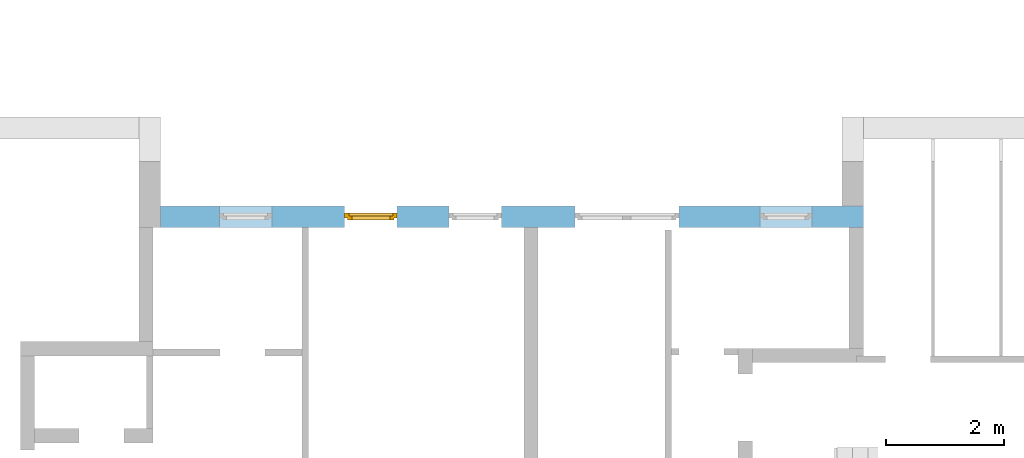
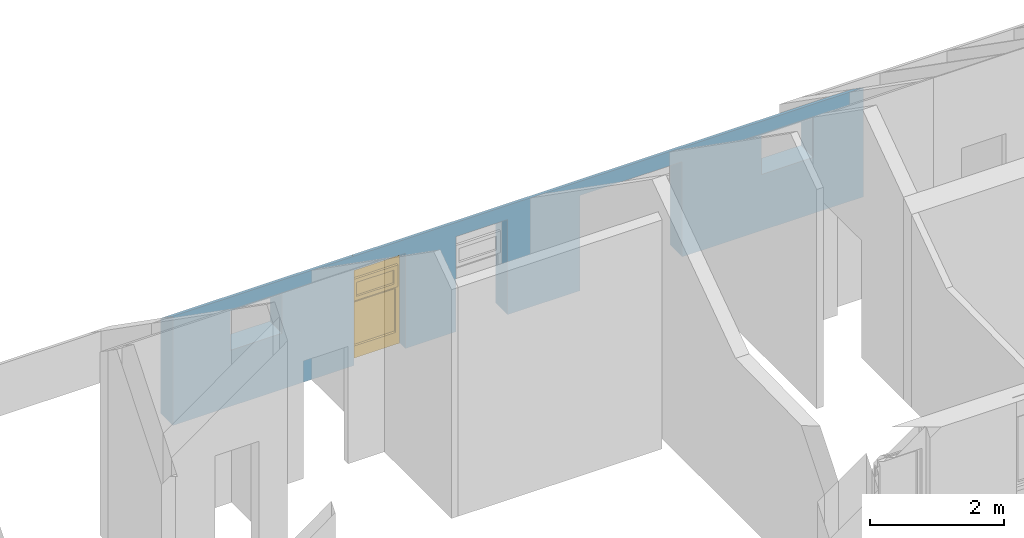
# One storey, part 18 of 23: 1 window, 5 openings, plus 1 element that does not belong to this part.
"""IFC2X3 building model written with IfcOpenShell, lengths in millimetres."""

import ifcopenshell
import ifcopenshell.guid

model = None  # the IFC model being written
_history = None  # IfcOwnerHistory: only IFC2X3 demands one
_inside = {}  # id of a spatial element -> (the spatial element, [elements in it])
_under = {}  # id of a project, library or spatial element -> (it, [spatial elements below it])
_declared = {}  # id of a project -> (the project, [libraries it declares])
_typed = {}  # id of a type object -> (the type object, [elements of that type])
_made_of = {}  # id of a material, layer set ... -> (it, [elements and type objects made of it])


def new_model(schema):
    """Start an empty IFC model of exactly this schema.

    Asked for "IFC4X3", IfcOpenShell would pick the latest addendum, in which some entities
    have other attributes; the version numbers below select the first issue.
    IFC2X3 requires an IfcOwnerHistory on every rooted entity: one is made here for all.
    """
    global model, _history
    if schema == "IFC4X3":
        model = ifcopenshell.file(schema_version=(4, 3, 0, 0))
    else:
        model = ifcopenshell.file(schema=schema)
    _inside.clear()
    _under.clear()
    _declared.clear()
    _typed.clear()
    _made_of.clear()
    _history = None
    if model.schema == "IFC2X3":
        org = make("IfcOrganization", Name="unknown")
        user = make(
            "IfcPersonAndOrganization",
            ThePerson=make("IfcPerson", FamilyName="unknown"),
            TheOrganization=org,
        )
        app = make(
            "IfcApplication",
            ApplicationDeveloper=org,
            Version="unknown",
            ApplicationFullName="unknown",
            ApplicationIdentifier="unknown",
        )
        _history = make(
            "IfcOwnerHistory",
            OwningUser=user,
            OwningApplication=app,
            ChangeAction="ADDED",
            CreationDate=0,
        )
    return model


def make(cls, **values):
    """One entity of the class cls with the attributes given. An attribute that is None is left unset."""
    return model.create_entity(
        cls, **{name: value for name, value in values.items() if value is not None}
    )


def entity(cls, *values):
    """Any entity or typed value of the class cls, its attributes in the order of the schema. None: left unset."""
    e = model.create_entity(cls)
    for i, value in enumerate(values):
        if value is not None:
            e[i] = value
    return e


def rooted(cls, **values):
    """An entity with a GlobalId (a new one), such as an element, a storey or a relation."""
    return make(cls, GlobalId=ifcopenshell.guid.new(), OwnerHistory=_history, **values)


def si_unit(unit_type, name, prefix=None):
    """IfcSIUnit, for example si_unit("LENGTHUNIT", "METRE", prefix="MILLI")."""
    return make("IfcSIUnit", UnitType=unit_type, Prefix=prefix, Name=name)


def converted_unit(unit_type, name, factor, base, dimensions=None, offset=None):
    """IfcConversionBasedUnit, such as the inch: factor (a typed value) times the base unit."""
    return make(
        "IfcConversionBasedUnit"
        if offset is None
        else "IfcConversionBasedUnitWithOffset",
        ConversionOffset=offset,
        Dimensions=None
        if dimensions is None
        else entity("IfcDimensionalExponents", *dimensions),
        UnitType=unit_type,
        Name=name,
        ConversionFactor=make(
            "IfcMeasureWithUnit", ValueComponent=factor, UnitComponent=base
        ),
    )


def assignment(units):
    """IfcUnitAssignment: the units of a project."""
    return None if units is None else make("IfcUnitAssignment", Units=units)


def point(xyz):
    """IfcCartesianPoint."""
    return None if xyz is None else make("IfcCartesianPoint", Coordinates=xyz)


def direction(xyz):
    """IfcDirection."""
    return None if xyz is None else make("IfcDirection", DirectionRatios=xyz)


def frame(location, z_axis=None, x_axis=None):
    """IfcAxis2Placement3D, a coordinate frame: its origin and axes. An axis left out is left unset."""
    return make(
        "IfcAxis2Placement3D",
        Location=point(location),
        Axis=direction(z_axis),
        RefDirection=direction(x_axis),
    )


def frame_2d(location, x_axis=None):
    """IfcAxis2Placement2D, a coordinate frame in the plane: its origin and x axis."""
    return make(
        "IfcAxis2Placement2D", Location=point(location), RefDirection=direction(x_axis)
    )


def origin():
    """The frame at (0, 0, 0) with its axes left unset."""
    return frame((0.0, 0.0, 0.0))


def origin_with_axes():
    """The frame at (0, 0, 0) with the z axis (0, 0, 1) and the x axis (1, 0, 0) written out."""
    return frame((0.0, 0.0, 0.0), z_axis=(0.0, 0.0, 1.0), x_axis=(1.0, 0.0, 0.0))


def place(relative_to, where):
    """IfcLocalPlacement: puts the frame where relative to a parent placement (None: the world)."""
    return make(
        "IfcLocalPlacement", PlacementRelTo=relative_to, RelativePlacement=where
    )


def context(
    kind, dimensions, precision=None, world=None, true_north=None, identifier=None
):
    """IfcGeometricRepresentationContext, for example the 3D "Model" context."""
    return make(
        "IfcGeometricRepresentationContext",
        ContextIdentifier=identifier,
        ContextType=kind,
        CoordinateSpaceDimension=dimensions,
        Precision=precision,
        WorldCoordinateSystem=world,
        TrueNorth=true_north,
    )


def subcontext(parent, identifier, kind, view, scale=None):
    """IfcGeometricRepresentationSubContext, for example "Body" below "Model"."""
    return make(
        "IfcGeometricRepresentationSubContext",
        ContextIdentifier=identifier,
        ContextType=kind,
        ParentContext=parent,
        TargetScale=scale,
        TargetView=view,
    )


def project(units=None, contexts=None):
    """IfcProject with its units and contexts."""
    return rooted(
        "IfcProject",
        Name="project",
        RepresentationContexts=contexts,
        UnitsInContext=assignment(units),
    )


def spatial(cls, under=None, at=None, **own):
    """A site, building, storey or space (cls), placed at a placement, below another one or the project."""
    s = rooted(cls, ObjectPlacement=at, **own)
    if under is not None:
        _under.setdefault(under.id(), (under, []))[1].append(s)
    return s


def profile(cls, at=None, kind="AREA", **sizes):
    """A parametric profile (cls). Its sizes go by their IFC names, for example OverallWidth=200.0."""
    return make(cls, ProfileType=kind, Position=at, **sizes)


def rectangle(**sizes):
    """IfcRectangleProfileDef."""
    return profile("IfcRectangleProfileDef", **sizes)


def extrude(swept, where, along, depth):
    """IfcExtrudedAreaSolid: the profile swept, set in the frame where, extruded along a direction by depth."""
    return make(
        "IfcExtrudedAreaSolid",
        SweptArea=swept,
        Position=where,
        ExtrudedDirection=direction(along),
        Depth=depth,
    )


def clip(a, b, op="DIFFERENCE"):
    """IfcBooleanClippingResult: the solid a cut by the half space b."""
    return make(
        "IfcBooleanClippingResult", Operator=op, FirstOperand=a, SecondOperand=b
    )


def halfspace(plane, agree):
    """IfcHalfSpaceSolid: all space on one side of the plane z = 0 of the frame plane."""
    return make(
        "IfcHalfSpaceSolid",
        BaseSurface=make("IfcPlane", Position=plane),
        AgreementFlag=agree,
    )


def faces_of(points, faces, orient=None, outer=None):
    """IfcFace entities. A face is a list of loops; a loop is a list of indices into points, from 0.

    orient and outer hold one flag for each loop. By default every Orientation is true, the
    first loop of a face is its IfcFaceOuterBound and the others are IfcFaceBound.
    """
    made = []
    for i, loops in enumerate(faces):
        bounds = []
        for j, loop in enumerate(loops):
            is_outer = j == 0 if outer is None else outer[i][j]
            bounds.append(
                make(
                    "IfcFaceOuterBound" if is_outer else "IfcFaceBound",
                    Bound=make("IfcPolyLoop", Polygon=[points[k] for k in loop]),
                    Orientation=True if orient is None else orient[i][j],
                )
            )
        made.append(make("IfcFace", Bounds=bounds))
    return made


def faceted_brep(points, faces, orient=None, outer=None, voids=None):
    """IfcFacetedBrep: a solid bounded by flat faces; with voids (closed shells), ...WithVoids."""
    shared = [point(p) for p in points]
    hull = make("IfcClosedShell", CfsFaces=faces_of(shared, faces, orient, outer))
    if voids is None:
        return make("IfcFacetedBrep", Outer=hull)
    return make(
        "IfcFacetedBrepWithVoids",
        Outer=hull,
        Voids=[
            make(cls, CfsFaces=faces_of(shared, fs, o, b)) for cls, fs, o, b in voids
        ],
    )


def shape(context_of_items, identifier, shape_type, items):
    """IfcShapeRepresentation: the items that make up one representation, for example the "Body"."""
    return make(
        "IfcShapeRepresentation",
        ContextOfItems=context_of_items,
        RepresentationIdentifier=identifier,
        RepresentationType=shape_type,
        Items=items,
    )


def material(Name=None, Category=None):
    """IfcMaterial."""
    return make("IfcMaterial", Name=Name, Category=Category)


def layer(
    of_material, thickness, ventilated=None, Name=None, Category=None, Priority=None
):
    """IfcMaterialLayer: one layer of a wall or slab, of a material (None: an air gap)."""
    return make(
        "IfcMaterialLayer",
        Material=of_material,
        LayerThickness=thickness,
        IsVentilated=ventilated,
        Name=Name,
        Category=Category,
        Priority=Priority,
    )


def layer_set(layers, Name=None):
    """IfcMaterialLayerSet."""
    return make("IfcMaterialLayerSet", MaterialLayers=layers, LayerSetName=Name)


def layer_usage(for_layer_set, set_direction, sense, offset, extent=None):
    """IfcMaterialLayerSetUsage: how a layer set lies in its element."""
    return make(
        "IfcMaterialLayerSetUsage",
        ForLayerSet=for_layer_set,
        LayerSetDirection=set_direction,
        DirectionSense=sense,
        OffsetFromReferenceLine=offset,
        ReferenceExtent=extent,
    )


def made_of(thing, what):
    """Note that an element or type object is made of a material, layer set ...; save() writes the relation."""
    if what is not None:
        _made_of.setdefault(what.id(), (what, []))[1].append(thing)
    return thing


def type_object(cls, material=None, **own):
    """A type object (cls), such as IfcWallType, which elements share."""
    return made_of(rooted(cls, **own), material)


def element(
    cls,
    number,
    at=None,
    inside=None,
    cuts=None,
    type_object=None,
    material=None,
    context=None,
    identifier="Body",
    shape_type=None,
    held_by="IfcProductDefinitionShape",
    body=None,
    shapes=None,
    **own,
):
    """One element of the class cls, such as IfcWall. Its Tag is "e" and its number.

    at: its placement. inside: the storey or other place that contains it. cuts: it is an
    opening in that element (IfcRelVoidsElement). A single representation is given by context,
    identifier, shape_type and body (its items); several are given by shapes. held_by: the class
    of the entity that holds the representations. save() writes the other relations.
    """
    e = rooted(cls, Tag="e%d" % number, ObjectPlacement=at, **own)
    if body is not None:
        shapes = [shape(context, identifier, shape_type, body)]
    if shapes is not None:
        e.Representation = make(held_by, Representations=shapes)
    if inside is not None:
        _inside.setdefault(inside.id(), (inside, []))[1].append(e)
    if cuts is not None:
        rooted(
            "IfcRelVoidsElement", RelatingBuildingElement=cuts, RelatedOpeningElement=e
        )
    if type_object is not None:
        _typed.setdefault(type_object.id(), (type_object, []))[1].append(e)
    return made_of(e, material)


def fill(opening, filler):
    """IfcRelFillsElement: the door or window that sits in an opening."""
    return rooted(
        "IfcRelFillsElement",
        RelatingOpeningElement=opening,
        RelatedBuildingElement=filler,
    )


def aggregate(whole, parts):
    """IfcRelAggregates: a whole, such as a stair, and the parts it consists of."""
    return rooted("IfcRelAggregates", RelatingObject=whole, RelatedObjects=parts)


def save(model, path):
    """Write the relations noted so far, then the file.

    IfcRelAggregates (storeys below a building ...), IfcRelContainedInSpatialStructure (elements
    in a storey), IfcRelDefinesByType, IfcRelAssociatesMaterial and IfcRelDeclares: one each for
    every whole, place, type object, material and project.
    """
    for whole, parts in _under.values():
        aggregate(whole, parts)
    for where, things in _inside.values():
        rooted(
            "IfcRelContainedInSpatialStructure",
            RelatedElements=things,
            RelatingStructure=where,
        )
    for kind, things in _typed.values():
        rooted("IfcRelDefinesByType", RelatedObjects=things, RelatingType=kind)
    for what, things in _made_of.values():
        rooted("IfcRelAssociatesMaterial", RelatedObjects=things, RelatingMaterial=what)
    for by, libraries in _declared.values():
        rooted("IfcRelDeclares", RelatingContext=by, RelatedDefinitions=libraries)
    model.write(path)


model = new_model("IFC2X3")

# Units and contexts
model_context = context("Model", 3, precision=1e-05, world=origin())
body_context = subcontext(model_context, "Body", "Model", "MODEL_VIEW")
ifc_project = project(units=[si_unit("LENGTHUNIT", "METRE", prefix="MILLI"), converted_unit("PLANEANGLEUNIT", "DEGREE", entity("IfcPlaneAngleMeasure", 0.0174532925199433), si_unit("PLANEANGLEUNIT", "RADIAN"), dimensions=[0, 0, 0, 0, 0, 0, 0]), si_unit("AREAUNIT", "SQUARE_METRE"), si_unit("VOLUMEUNIT", "CUBIC_METRE")], contexts=[model_context])

# Building, storey
building_placement = place(None, origin())
building = spatial("IfcBuilding", under=ifc_project, at=building_placement, Name="Gebäude", CompositionType="ELEMENT")
storey_placement = place(building_placement, frame((0.0, 0.0, 5580.0), z_axis=(0.0, 0.0, 1.0), x_axis=(1.0, 0.0, 0.0)))
storey = spatial("IfcBuildingStorey", under=building, at=storey_placement, Name="DG.- Grundriss", CompositionType="ELEMENT", Elevation=5580.0)

# Wall, openings, window
ifc_material_1 = material(Name="Poroton")
ifc_layer = layer(ifc_material_1, 365.0000000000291)
ifc_layer_set = layer_set([ifc_layer])
ifc_layer_usage = layer_usage(ifc_layer_set, "AXIS2", "POSITIVE", 0.0)
wall_placement = place(storey_placement, frame((176237.7928067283, 134774.8877324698, 0.0), z_axis=(0.0, 0.0, 1.0), x_axis=(-1.0, 0.0, 0.0)))
wall = element("IfcWallStandardCase", 1, at=wall_placement, inside=storey, material=ifc_layer_usage, Name="<Unnamed Element>", context=body_context, shape_type="Clipping", body=[
    clip(extrude(rectangle(XDim=11869.99999999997, YDim=365.0000000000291, at=frame_2d((5934.999999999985, 182.5000000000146), x_axis=(1.0, 0.0))), origin_with_axes(), (0.0, 0.0, 1.0), 1985.88705876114), halfspace(frame((0.0, 0.0, 1730.311307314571), z_axis=(3.082338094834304e-17, 0.5735764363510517, -0.8191520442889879), x_axis=(1.0, 0.0, 0.0)), True)),
])
opening_1_placement = place(wall_placement, frame((7875.000000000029, 0.0, 0.0), z_axis=(0.0, 1.0, 0.0), x_axis=(0.0, 0.0, 1.0)))
opening_1 = element("IfcOpeningElement", 2, at=opening_1_placement, cuts=wall, Name="Fensteröffnung", ObjectType="Opening", context=body_context, shape_type="SweptSolid", body=[
    extrude(rectangle(XDim=1730.311307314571, YDim=885.0, at=frame_2d((865.1556536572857, 442.5), x_axis=(1.0, 0.0))), origin_with_axes(), (0.0, 0.0, 1.0), 365.0000000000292),
])
opening_2_placement = place(wall_placement, frame((6115.000000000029, 0.0, 0.0), z_axis=(0.0, 1.0, 0.0), x_axis=(0.0, 0.0, 1.0)))
element("IfcOpeningElement", 3, at=opening_2_placement, cuts=wall, Name="Fensteröffnung", ObjectType="Opening", context=body_context, shape_type="SweptSolid", body=[
    extrude(rectangle(XDim=1730.311307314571, YDim=885.0, at=frame_2d((865.1556536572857, 442.5), x_axis=(1.0, 0.0))), origin_with_axes(), (0.0, 0.0, 1.0), 365.0000000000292),
])
opening_3_placement = place(wall_placement, frame((9990.00000000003, 0.0, 1020.0), z_axis=(0.0, 1.0, 0.0), x_axis=(0.0, 0.0, 1.0)))
element("IfcOpeningElement", 4, at=opening_3_placement, cuts=wall, Name="Fensteröffnung", ObjectType="Opening", context=body_context, shape_type="SweptSolid", body=[
    extrude(rectangle(XDim=710.3113073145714, YDim=885.0, at=frame_2d((355.1556536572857, 442.5), x_axis=(1.0, 0.0))), origin_with_axes(), (0.0, 0.0, 1.0), 365.0000000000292),
])
opening_4_placement = place(wall_placement, frame((3115.000000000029, 0.0, 0.0), z_axis=(0.0, 1.0, 0.0), x_axis=(0.0, 0.0, 1.0)))
element("IfcOpeningElement", 5, at=opening_4_placement, cuts=wall, Name="Fensteröffnung", ObjectType="Opening", context=body_context, shape_type="SweptSolid", body=[
    extrude(rectangle(XDim=1730.311307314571, YDim=1760.0, at=frame_2d((865.1556536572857, 880.0), x_axis=(1.0, 0.0))), origin_with_axes(), (0.0, 0.0, 1.0), 365.0000000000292),
])
opening_5_placement = place(wall_placement, frame((865.0000000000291, 0.0, 1020.0), z_axis=(0.0, 1.0, 0.0), x_axis=(0.0, 0.0, 1.0)))
element("IfcOpeningElement", 6, at=opening_5_placement, cuts=wall, Name="Fensteröffnung", ObjectType="Opening", context=body_context, shape_type="SweptSolid", body=[
    extrude(rectangle(XDim=710.3113073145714, YDim=885.0, at=frame_2d((355.1556536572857, 442.5), x_axis=(1.0, 0.0))), origin_with_axes(), (0.0, 0.0, 1.0), 365.0000000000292),
])
ifc_material_2 = material()
window_style = type_object("IfcWindowStyle", Name="Fenster", ConstructionType="NOTDEFINED", OperationType="USERDEFINED", ParameterTakesPrecedence=False, Sizeable=False)
window_placement = place(opening_1_placement, frame((0.0, 0.0, 0.0), z_axis=(1.0, 0.0, 0.0), x_axis=(0.0, 1.0, 0.0)))
window = element("IfcWindow", 7, at=window_placement, inside=storey, type_object=window_style, material=ifc_material_2, Name="Fenster", OverallHeight=1985.88705876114, OverallWidth=885.0, context=body_context, shape_type="Brep", body=[
    faceted_brep([(9.79717439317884e-15, 200.0000000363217, 1814.336211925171), (9.797174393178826e-15, 200.0000000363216, -2.449293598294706e-15), (70.00000000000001, 200.0000000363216, -2.449293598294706e-15), (70.00000000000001, 200.0000000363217, 1814.336211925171), (0.0, 120.0000000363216, 2.449293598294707e-15), (1.392262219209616e-29, 120.0000000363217, 1814.336211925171), (70.0, 120.0000000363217, 1814.336211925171), (70.0, 120.0000000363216, 2.449293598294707e-15), (9.797174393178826e-15, 200.0000000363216, -2.449293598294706e-15), (9.79717439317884e-15, 200.0000000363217, 1814.336211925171), (1.392262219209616e-29, 120.0000000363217, 1814.336211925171), (0.0, 120.0000000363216, 2.449293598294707e-15), (70.00000000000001, 200.0000000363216, -2.449293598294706e-15), (9.797174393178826e-15, 200.0000000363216, -2.449293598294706e-15), (0.0, 120.0000000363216, 2.449293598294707e-15), (70.0, 120.0000000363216, 2.449293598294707e-15), (70.00000000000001, 200.0000000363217, 1814.336211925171), (70.00000000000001, 200.0000000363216, -2.449293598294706e-15), (70.0, 120.0000000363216, 2.449293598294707e-15), (70.0, 120.0000000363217, 1814.336211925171), (9.79717439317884e-15, 200.0000000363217, 1814.336211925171), (70.00000000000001, 200.0000000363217, 1814.336211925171), (70.0, 120.0000000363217, 1814.336211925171), (1.392262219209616e-29, 120.0000000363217, 1814.336211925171)], [[[0, 1, 2, 3]], [[4, 5, 6, 7]], [[8, 9, 10, 11]], [[12, 13, 14, 15]], [[16, 17, 18, 19]], [[20, 21, 22, 23]]], orient=[[False], [False], [False], [False], [False], [False]]),
    faceted_brep([(815.0000000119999, 200.0000000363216, 1814.336211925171), (815.0000000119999, 200.0000000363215, -2.449293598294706e-15), (885.0000000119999, 200.0000000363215, -2.449293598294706e-15), (885.0000000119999, 200.0000000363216, 1814.336211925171), (815.0000000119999, 120.0000000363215, 2.449293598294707e-15), (815.0000000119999, 120.0000000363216, 1814.336211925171), (885.0000000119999, 120.0000000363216, 1814.336211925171), (885.0000000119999, 120.0000000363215, 2.449293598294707e-15), (815.0000000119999, 200.0000000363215, -2.449293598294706e-15), (815.0000000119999, 200.0000000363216, 1814.336211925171), (815.0000000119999, 120.0000000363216, 1814.336211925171), (815.0000000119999, 120.0000000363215, 2.449293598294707e-15), (885.0000000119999, 200.0000000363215, -2.449293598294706e-15), (815.0000000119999, 200.0000000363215, -2.449293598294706e-15), (815.0000000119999, 120.0000000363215, 2.449293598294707e-15), (885.0000000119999, 120.0000000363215, 2.449293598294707e-15), (885.0000000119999, 200.0000000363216, 1814.336211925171), (885.0000000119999, 200.0000000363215, -2.449293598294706e-15), (885.0000000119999, 120.0000000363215, 2.449293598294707e-15), (885.0000000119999, 120.0000000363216, 1814.336211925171), (815.0000000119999, 200.0000000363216, 1814.336211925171), (885.0000000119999, 200.0000000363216, 1814.336211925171), (885.0000000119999, 120.0000000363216, 1814.336211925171), (815.0000000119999, 120.0000000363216, 1814.336211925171)], [[[0, 1, 2, 3]], [[4, 5, 6, 7]], [[8, 9, 10, 11]], [[12, 13, 14, 15]], [[16, 17, 18, 19]], [[20, 21, 22, 23]]], orient=[[False], [False], [False], [False], [False], [False]]),
    faceted_brep([(70.00000000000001, 200.0000000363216, 220.0), (70.00000000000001, 200.0000000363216, -2.449293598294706e-15), (815.0000000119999, 200.0000000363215, -2.449293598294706e-15), (815.0000000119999, 200.0000000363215, 220.0), (70.0, 120.0000000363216, 2.449293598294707e-15), (70.0, 120.0000000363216, 220.0), (815.0000000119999, 120.0000000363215, 220.0), (815.0000000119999, 120.0000000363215, 2.449293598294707e-15), (70.00000000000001, 200.0000000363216, -2.449293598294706e-15), (70.00000000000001, 200.0000000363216, 220.0), (70.0, 120.0000000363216, 220.0), (70.0, 120.0000000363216, 2.449293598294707e-15), (815.0000000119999, 200.0000000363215, -2.449293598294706e-15), (70.00000000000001, 200.0000000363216, -2.449293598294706e-15), (70.0, 120.0000000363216, 2.449293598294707e-15), (815.0000000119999, 120.0000000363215, 2.449293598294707e-15), (815.0000000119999, 200.0000000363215, 220.0), (815.0000000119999, 200.0000000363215, -2.449293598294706e-15), (815.0000000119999, 120.0000000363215, 2.449293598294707e-15), (815.0000000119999, 120.0000000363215, 220.0), (70.00000000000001, 200.0000000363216, 220.0), (815.0000000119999, 200.0000000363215, 220.0), (815.0000000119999, 120.0000000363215, 220.0), (70.0, 120.0000000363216, 220.0)], [[[0, 1, 2, 3]], [[4, 5, 6, 7]], [[8, 9, 10, 11]], [[12, 13, 14, 15]], [[16, 17, 18, 19]], [[20, 21, 22, 23]]], orient=[[False], [False], [False], [False], [False], [False]]),
    faceted_brep([(70.00000000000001, 200.0000000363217, 1814.336211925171), (70.00000000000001, 200.0000000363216, 1444.336211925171), (815.0000000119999, 200.0000000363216, 1444.336211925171), (815.0000000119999, 200.0000000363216, 1814.336211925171), (70.0, 120.0000000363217, 1444.336211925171), (70.0, 120.0000000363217, 1814.336211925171), (815.0000000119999, 120.0000000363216, 1814.336211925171), (815.0000000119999, 120.0000000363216, 1444.336211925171), (70.00000000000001, 200.0000000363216, 1444.336211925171), (70.00000000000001, 200.0000000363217, 1814.336211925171), (70.0, 120.0000000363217, 1814.336211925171), (70.0, 120.0000000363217, 1444.336211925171), (815.0000000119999, 200.0000000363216, 1444.336211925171), (70.00000000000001, 200.0000000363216, 1444.336211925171), (70.0, 120.0000000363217, 1444.336211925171), (815.0000000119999, 120.0000000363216, 1444.336211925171), (815.0000000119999, 200.0000000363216, 1814.336211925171), (815.0000000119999, 200.0000000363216, 1444.336211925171), (815.0000000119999, 120.0000000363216, 1444.336211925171), (815.0000000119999, 120.0000000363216, 1814.336211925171), (70.00000000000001, 200.0000000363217, 1814.336211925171), (815.0000000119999, 200.0000000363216, 1814.336211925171), (815.0000000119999, 120.0000000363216, 1814.336211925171), (70.0, 120.0000000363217, 1814.336211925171)], [[[0, 1, 2, 3]], [[4, 5, 6, 7]], [[8, 9, 10, 11]], [[12, 13, 14, 15]], [[16, 17, 18, 19]], [[20, 21, 22, 23]]], orient=[[False], [False], [False], [False], [False], [False]]),
    faceted_brep([(70.00000000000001, 200.0000000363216, 1090.0), (70.00000000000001, 200.0000000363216, 1020.0), (815.0000000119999, 200.0000000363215, 1020.0), (815.0000000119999, 200.0000000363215, 1090.0), (70.0, 120.0000000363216, 1020.0), (70.0, 120.0000000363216, 1090.0), (815.0000000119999, 120.0000000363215, 1090.0), (815.0000000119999, 120.0000000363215, 1020.0), (70.00000000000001, 200.0000000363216, 1020.0), (70.00000000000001, 200.0000000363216, 1090.0), (70.0, 120.0000000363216, 1090.0), (70.0, 120.0000000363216, 1020.0), (815.0000000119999, 200.0000000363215, 1020.0), (70.00000000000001, 200.0000000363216, 1020.0), (70.0, 120.0000000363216, 1020.0), (815.0000000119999, 120.0000000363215, 1020.0), (815.0000000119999, 200.0000000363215, 1090.0), (815.0000000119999, 200.0000000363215, 1020.0), (815.0000000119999, 120.0000000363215, 1020.0), (815.0000000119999, 120.0000000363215, 1090.0), (70.00000000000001, 200.0000000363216, 1090.0), (815.0000000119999, 200.0000000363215, 1090.0), (815.0000000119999, 120.0000000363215, 1090.0), (70.0, 120.0000000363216, 1090.0)], [[[0, 1, 2, 3]], [[4, 5, 6, 7]], [[8, 9, 10, 11]], [[12, 13, 14, 15]], [[16, 17, 18, 19]], [[20, 21, 22, 23]]], orient=[[False], [False], [False], [False], [False], [False]]),
    faceted_brep([(70.0, 160.0000000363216, 220.0), (815.0000000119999, 160.0000000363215, 220.0), (815.0000000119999, 160.0000000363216, 1020.0), (70.0, 160.0000000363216, 1020.0), (70.0, 159.0000000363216, 220.0), (70.0, 159.0000000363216, 1020.0), (815.0000000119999, 159.0000000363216, 1020.0), (815.0000000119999, 159.0000000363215, 220.0), (70.0, 160.0000000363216, 220.0), (70.0, 159.0000000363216, 220.0), (815.0000000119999, 159.0000000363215, 220.0), (815.0000000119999, 160.0000000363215, 220.0), (815.0000000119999, 160.0000000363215, 220.0), (815.0000000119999, 159.0000000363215, 220.0), (815.0000000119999, 159.0000000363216, 1020.0), (815.0000000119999, 160.0000000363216, 1020.0), (815.0000000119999, 160.0000000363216, 1020.0), (815.0000000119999, 159.0000000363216, 1020.0), (70.0, 159.0000000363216, 1020.0), (70.0, 160.0000000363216, 1020.0), (70.0, 160.0000000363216, 1020.0), (70.0, 159.0000000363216, 1020.0), (70.0, 159.0000000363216, 220.0), (70.0, 160.0000000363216, 220.0)], [[[0, 1, 2, 3]], [[4, 5, 6, 7]], [[8, 9, 10, 11]], [[12, 13, 14, 15]], [[16, 17, 18, 19]], [[20, 21, 22, 23]]], orient=[[False], [False], [False], [False], [False], [False]]),
    faceted_brep([(50.00000000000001, 240.0000000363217, 1464.336211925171), (50.00000000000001, 240.0000000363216, 1070.0), (120.0, 240.0000000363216, 1070.0), (120.0, 240.0000000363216, 1464.336211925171), (50.00000000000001, 170.0000000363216, 1070.0), (50.00000000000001, 170.0000000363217, 1464.336211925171), (120.0, 170.0000000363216, 1464.336211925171), (120.0, 170.0000000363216, 1070.0), (50.00000000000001, 240.0000000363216, 1070.0), (50.00000000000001, 240.0000000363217, 1464.336211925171), (50.00000000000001, 170.0000000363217, 1464.336211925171), (50.00000000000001, 170.0000000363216, 1070.0), (120.0, 240.0000000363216, 1070.0), (50.00000000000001, 240.0000000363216, 1070.0), (50.00000000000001, 170.0000000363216, 1070.0), (120.0, 170.0000000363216, 1070.0), (120.0, 240.0000000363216, 1464.336211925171), (120.0, 240.0000000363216, 1070.0), (120.0, 170.0000000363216, 1070.0), (120.0, 170.0000000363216, 1464.336211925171), (50.00000000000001, 240.0000000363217, 1464.336211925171), (120.0, 240.0000000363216, 1464.336211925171), (120.0, 170.0000000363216, 1464.336211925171), (50.00000000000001, 170.0000000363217, 1464.336211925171)], [[[0, 1, 2, 3]], [[4, 5, 6, 7]], [[8, 9, 10, 11]], [[12, 13, 14, 15]], [[16, 17, 18, 19]], [[20, 21, 22, 23]]], orient=[[False], [False], [False], [False], [False], [False]]),
    faceted_brep([(765.0000000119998, 240.0000000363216, 1464.336211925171), (765.0000000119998, 240.0000000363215, 1070.0), (835.0000000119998, 240.0000000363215, 1070.0), (835.0000000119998, 240.0000000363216, 1464.336211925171), (765.0000000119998, 170.0000000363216, 1070.0), (765.0000000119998, 170.0000000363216, 1464.336211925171), (835.0000000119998, 170.0000000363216, 1464.336211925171), (835.0000000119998, 170.0000000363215, 1070.0), (765.0000000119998, 240.0000000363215, 1070.0), (765.0000000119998, 240.0000000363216, 1464.336211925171), (765.0000000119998, 170.0000000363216, 1464.336211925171), (765.0000000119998, 170.0000000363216, 1070.0), (835.0000000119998, 240.0000000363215, 1070.0), (765.0000000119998, 240.0000000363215, 1070.0), (765.0000000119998, 170.0000000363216, 1070.0), (835.0000000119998, 170.0000000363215, 1070.0), (835.0000000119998, 240.0000000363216, 1464.336211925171), (835.0000000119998, 240.0000000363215, 1070.0), (835.0000000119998, 170.0000000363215, 1070.0), (835.0000000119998, 170.0000000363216, 1464.336211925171), (765.0000000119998, 240.0000000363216, 1464.336211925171), (835.0000000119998, 240.0000000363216, 1464.336211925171), (835.0000000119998, 170.0000000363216, 1464.336211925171), (765.0000000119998, 170.0000000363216, 1464.336211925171)], [[[0, 1, 2, 3]], [[4, 5, 6, 7]], [[8, 9, 10, 11]], [[12, 13, 14, 15]], [[16, 17, 18, 19]], [[20, 21, 22, 23]]], orient=[[False], [False], [False], [False], [False], [False]]),
    faceted_brep([(120.0, 240.0000000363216, 1140.0), (120.0, 240.0000000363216, 1070.0), (765.0000000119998, 240.0000000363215, 1070.0), (765.0000000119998, 240.0000000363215, 1140.0), (120.0, 170.0000000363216, 1070.0), (120.0, 170.0000000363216, 1140.0), (765.0000000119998, 170.0000000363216, 1140.0), (765.0000000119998, 170.0000000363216, 1070.0), (120.0, 240.0000000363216, 1070.0), (120.0, 240.0000000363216, 1140.0), (120.0, 170.0000000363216, 1140.0), (120.0, 170.0000000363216, 1070.0), (765.0000000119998, 240.0000000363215, 1070.0), (120.0, 240.0000000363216, 1070.0), (120.0, 170.0000000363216, 1070.0), (765.0000000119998, 170.0000000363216, 1070.0), (765.0000000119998, 240.0000000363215, 1140.0), (765.0000000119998, 240.0000000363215, 1070.0), (765.0000000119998, 170.0000000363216, 1070.0), (765.0000000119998, 170.0000000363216, 1140.0), (120.0, 240.0000000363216, 1140.0), (765.0000000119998, 240.0000000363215, 1140.0), (765.0000000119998, 170.0000000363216, 1140.0), (120.0, 170.0000000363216, 1140.0)], [[[0, 1, 2, 3]], [[4, 5, 6, 7]], [[8, 9, 10, 11]], [[12, 13, 14, 15]], [[16, 17, 18, 19]], [[20, 21, 22, 23]]], orient=[[False], [False], [False], [False], [False], [False]]),
    faceted_brep([(120.0, 240.0000000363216, 1464.336211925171), (120.0, 240.0000000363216, 1394.336211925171), (765.0000000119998, 240.0000000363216, 1394.336211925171), (765.0000000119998, 240.0000000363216, 1464.336211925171), (120.0, 170.0000000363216, 1394.336211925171), (120.0, 170.0000000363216, 1464.336211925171), (765.0000000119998, 170.0000000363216, 1464.336211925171), (765.0000000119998, 170.0000000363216, 1394.336211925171), (120.0, 240.0000000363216, 1394.336211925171), (120.0, 240.0000000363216, 1464.336211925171), (120.0, 170.0000000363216, 1464.336211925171), (120.0, 170.0000000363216, 1394.336211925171), (765.0000000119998, 240.0000000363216, 1394.336211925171), (120.0, 240.0000000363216, 1394.336211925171), (120.0, 170.0000000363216, 1394.336211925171), (765.0000000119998, 170.0000000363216, 1394.336211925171), (765.0000000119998, 240.0000000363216, 1464.336211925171), (765.0000000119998, 240.0000000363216, 1394.336211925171), (765.0000000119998, 170.0000000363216, 1394.336211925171), (765.0000000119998, 170.0000000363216, 1464.336211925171), (120.0, 240.0000000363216, 1464.336211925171), (765.0000000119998, 240.0000000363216, 1464.336211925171), (765.0000000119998, 170.0000000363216, 1464.336211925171), (120.0, 170.0000000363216, 1464.336211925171)], [[[0, 1, 2, 3]], [[4, 5, 6, 7]], [[8, 9, 10, 11]], [[12, 13, 14, 15]], [[16, 17, 18, 19]], [[20, 21, 22, 23]]], orient=[[False], [False], [False], [False], [False], [False]]),
    faceted_brep([(120.0, 205.0000000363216, 1140.0), (765.0000000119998, 205.0000000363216, 1140.0), (765.0000000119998, 205.0000000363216, 1394.336211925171), (120.0, 205.0000000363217, 1394.336211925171), (120.0, 204.0000000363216, 1140.0), (120.0, 204.0000000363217, 1394.336211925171), (765.0000000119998, 204.0000000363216, 1394.336211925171), (765.0000000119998, 204.0000000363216, 1140.0), (120.0, 205.0000000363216, 1140.0), (120.0, 204.0000000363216, 1140.0), (765.0000000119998, 204.0000000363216, 1140.0), (765.0000000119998, 205.0000000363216, 1140.0), (765.0000000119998, 205.0000000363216, 1140.0), (765.0000000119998, 204.0000000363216, 1140.0), (765.0000000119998, 204.0000000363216, 1394.336211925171), (765.0000000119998, 205.0000000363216, 1394.336211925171), (765.0000000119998, 205.0000000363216, 1394.336211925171), (765.0000000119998, 204.0000000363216, 1394.336211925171), (120.0, 204.0000000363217, 1394.336211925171), (120.0, 205.0000000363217, 1394.336211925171), (120.0, 205.0000000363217, 1394.336211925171), (120.0, 204.0000000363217, 1394.336211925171), (120.0, 204.0000000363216, 1140.0), (120.0, 205.0000000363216, 1140.0)], [[[0, 1, 2, 3]], [[4, 5, 6, 7]], [[8, 9, 10, 11]], [[12, 13, 14, 15]], [[16, 17, 18, 19]], [[20, 21, 22, 23]]], orient=[[False], [False], [False], [False], [False], [False]]),
])
fill(opening_1, window)

save(model, "model.ifc")
